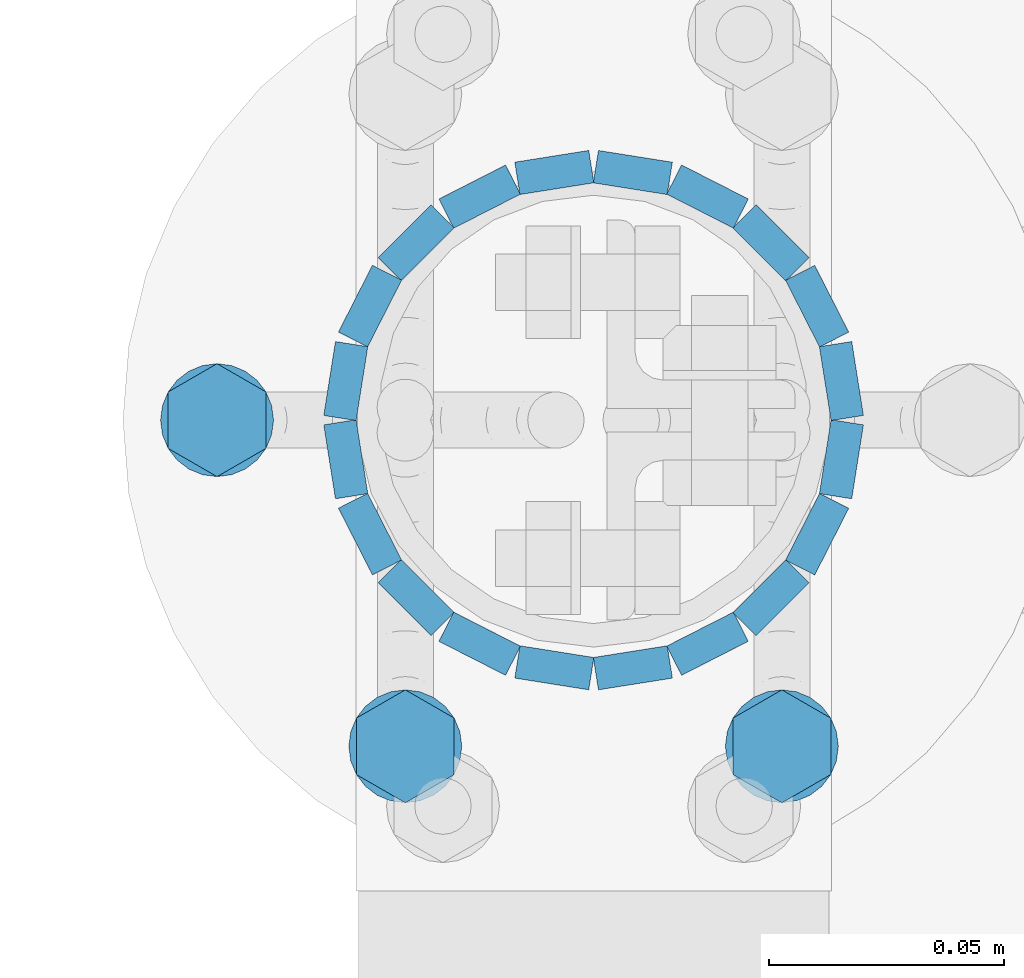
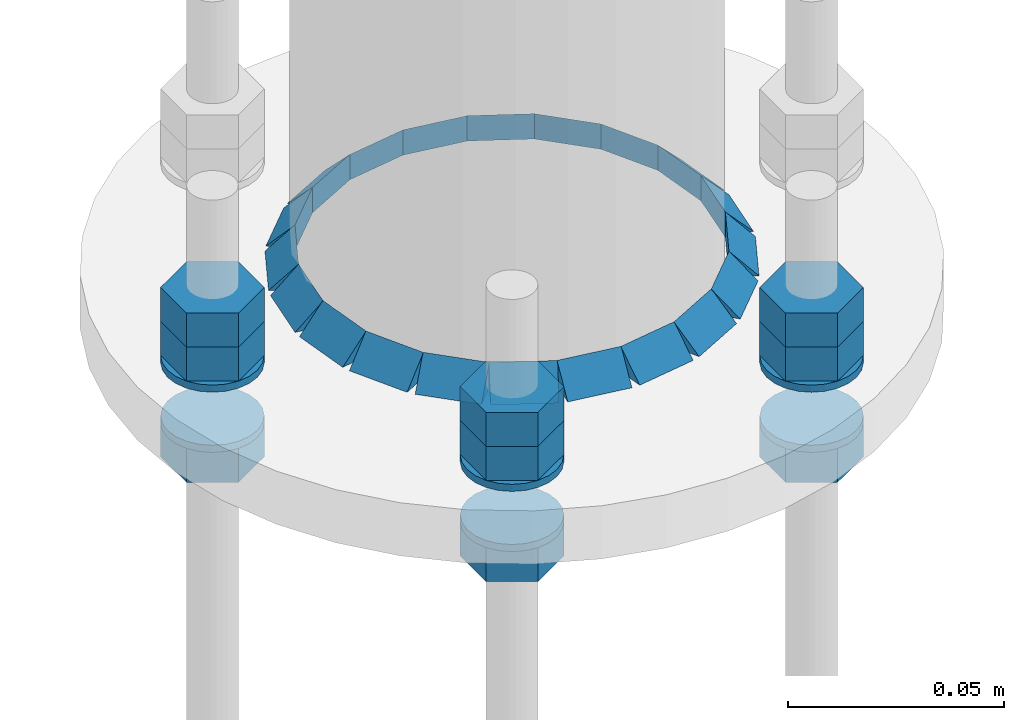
# One storey, part 74 of 84: 40 fasteners, 15 mechanical fasteners.
"""IFC4 building model written with IfcOpenShell, lengths in metres."""

from ifc_helpers import new_model, si_unit, frame, origin_with_axes, place, context, project, spatial, polyline, outline, extrude, type_object, element, save


model = new_model("IFC4")

# Units and contexts
model_context = context("Model", 3, precision=1e-05, world=origin_with_axes())
ifc_project = project(units=[si_unit("LENGTHUNIT", "METRE"), si_unit("AREAUNIT", "SQUARE_METRE"), si_unit("VOLUMEUNIT", "CUBIC_METRE"), si_unit("MASSUNIT", "GRAM", prefix="KILO"), si_unit("TIMEUNIT", "SECOND"), si_unit("PLANEANGLEUNIT", "RADIAN"), si_unit("SOLIDANGLEUNIT", "STERADIAN"), si_unit("THERMODYNAMICTEMPERATUREUNIT", "DEGREE_CELSIUS")], contexts=[model_context])

# Site, building, storey
placement_1 = place(None, origin_with_axes())
site = spatial("IfcSite", under=ifc_project, at=placement_1, Name="Italia", CompositionType="ELEMENT")
building = spatial("IfcBuilding", under=site, at=placement_1, Name="Tettoia", CompositionType="ELEMENT")
storey_placement = place(None, frame((0.0, 0.0, 4.199999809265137), z_axis=(0.0, 0.0, 1.0), x_axis=(1.0, 0.0, 0.0)))
storey = spatial("IfcBuildingStorey", under=building, at=storey_placement, Name="Storey 1", CompositionType="ELEMENT", Elevation=4.199999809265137)

# Fasteners
fastener_type_1 = type_object("IfcFastenerType", Name="Collegamento -014_0114", PredefinedType="WELD")
placement_2 = place(placement_1, origin_with_axes())
fastener_1_placement = place(placement_2, origin_with_axes())
element("IfcFastener", 1, at=fastener_1_placement, inside=storey, type_object=fastener_type_1, Name="Collegamento -014_0114", context=model_context, shape_type="SweptSolid", body=[
    extrude(outline(polyline([(0.0, 0.0), (0.00695801, 0.00717354), (0.00695801, 0.0), (0.0, 0.0)])), frame((0.116736, 19.8748, 4.01495), z_axis=(-0.98768937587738, 0.15642786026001, 0.0), x_axis=(-0.15642786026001, -0.98768937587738, 0.0)), (0.0, 0.0, 1.0), 0.0158999),
])
fastener_type_2 = type_object("IfcFastenerType", Name="Collegamento -014_0114", PredefinedType="WELD")
fastener_2_placement = place(placement_2, origin_with_axes())
element("IfcFastener", 2, at=fastener_2_placement, inside=storey, type_object=fastener_type_2, Name="Collegamento -014_0114", context=model_context, shape_type="SweptSolid", body=[
    extrude(outline(polyline([(0.0, 0.0), (0.00695801, 0.00717354), (0.00695801, 0.0), (0.0, 0.0)])), frame((0.132864, 19.867, 4.01495), z_axis=(-0.890982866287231, 0.454036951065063, 0.0), x_axis=(-0.454036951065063, -0.890982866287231, 0.0)), (0.0, 0.0, 1.0), 0.0159003),
])
fastener_type_3 = type_object("IfcFastenerType", Name="Collegamento -014_0114", PredefinedType="WELD")
fastener_3_placement = place(placement_2, origin_with_axes())
element("IfcFastener", 3, at=fastener_3_placement, inside=storey, type_object=fastener_type_3, Name="Collegamento -014_0114", context=model_context, shape_type="SweptSolid", body=[
    extrude(outline(polyline([(0.0, 0.0), (0.00695801, 0.00717354), (0.00695801, 0.0), (0.0, 0.0)])), frame((0.145775, 19.8545, 4.01495), z_axis=(-0.707138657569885, 0.707074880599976, 0.0), x_axis=(-0.707074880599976, -0.707138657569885, 0.0)), (0.0, 0.0, 1.0), 0.0158992),
])
fastener_type_4 = type_object("IfcFastenerType", Name="Collegamento -014_0114", PredefinedType="WELD")
fastener_4_placement = place(placement_2, origin_with_axes())
element("IfcFastener", 4, at=fastener_4_placement, inside=storey, type_object=fastener_type_4, Name="Collegamento -014_0114", context=model_context, shape_type="SweptSolid", body=[
    extrude(outline(polyline([(0.0, 0.0), (0.00695896, 0.00717354), (0.00695896, 0.0), (0.0, 0.0)])), frame((0.154206, 19.8387, 4.01495), z_axis=(-0.453968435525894, 0.89101779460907, 0.0), x_axis=(-0.89101779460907, -0.453968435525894, 0.0)), (0.0, 0.0, 1.0), 0.0159007),
])
fastener_type_5 = type_object("IfcFastenerType", Name="Collegamento -014_0114", PredefinedType="WELD")
fastener_5_placement = place(placement_2, origin_with_axes())
element("IfcFastener", 5, at=fastener_5_placement, inside=storey, type_object=fastener_type_5, Name="Collegamento -014_0114", context=model_context, shape_type="SweptSolid", body=[
    extrude(outline(polyline([(0.0, 0.0), (0.00695848, 0.00717354), (0.00695848, 0.0), (0.0, 0.0)])), frame((0.157331, 19.821, 4.01495), z_axis=(-0.156442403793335, 0.987687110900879, 0.0), x_axis=(-0.987687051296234, -0.156442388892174, 0.0)), (0.0, 0.0, 1.0), 0.015899),
])
fastener_type_6 = type_object("IfcFastenerType", Name="Collegamento -014_0114", PredefinedType="WELD")
fastener_6_placement = place(placement_2, origin_with_axes())
element("IfcFastener", 6, at=fastener_6_placement, inside=storey, type_object=fastener_type_6, Name="Collegamento -014_0114", context=model_context, shape_type="SweptSolid", body=[
    extrude(outline(polyline([(0.0, 0.0), (0.00695801, 0.00717354), (0.00695801, 0.0), (0.0, 0.0)])), frame((0.154844, 19.8033, 4.01495), z_axis=(0.156442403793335, 0.987687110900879, 0.0), x_axis=(-0.987687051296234, 0.156442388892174, 0.0)), (0.0, 0.0, 1.0), 0.015899),
])
fastener_type_7 = type_object("IfcFastenerType", Name="Collegamento -014_0114", PredefinedType="WELD")
fastener_7_placement = place(placement_2, origin_with_axes())
element("IfcFastener", 7, at=fastener_7_placement, inside=storey, type_object=fastener_type_7, Name="Collegamento -014_0114", context=model_context, shape_type="SweptSolid", body=[
    extrude(outline(polyline([(0.0, 0.0), (0.00695992, 0.00717354), (0.00695992, 0.0), (0.0, 0.0)])), frame((0.146988, 19.7871, 4.01495), z_axis=(0.453967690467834, 0.891018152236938, 0.0), x_axis=(-0.891018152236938, 0.453967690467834, 0.0)), (0.0, 0.0, 1.0), 0.0159007),
])
fastener_type_8 = type_object("IfcFastenerType", Name="Collegamento -014_0114", PredefinedType="WELD")
fastener_8_placement = place(placement_2, origin_with_axes())
element("IfcFastener", 8, at=fastener_8_placement, inside=storey, type_object=fastener_type_8, Name="Collegamento -014_0114", context=model_context, shape_type="SweptSolid", body=[
    extrude(outline(polyline([(0.0, 0.0), (0.00695896, 0.00717354), (0.00695896, 0.0), (0.0, 0.0)])), frame((0.134532, 19.7742, 4.01495), z_axis=(0.707139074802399, 0.707074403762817, 0.0), x_axis=(-0.707074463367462, 0.707139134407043, 0.0)), (0.0, 0.0, 1.0), 0.0158992),
])
fastener_type_9 = type_object("IfcFastenerType", Name="Collegamento -014_0114", PredefinedType="WELD")
fastener_9_placement = place(placement_2, origin_with_axes())
element("IfcFastener", 9, at=fastener_9_placement, inside=storey, type_object=fastener_type_9, Name="Collegamento -014_0114", context=model_context, shape_type="SweptSolid", body=[
    extrude(outline(polyline([(0.0, 0.0), (0.00695801, 0.00717354), (0.00695801, 0.0), (0.0, 0.0)])), frame((0.118697, 19.7658, 4.01495), z_axis=(0.890983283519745, 0.454035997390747, 0.0), x_axis=(-0.454036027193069, 0.89098334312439, 0.0)), (0.0, 0.0, 1.0), 0.0159003),
])
fastener_type_10 = type_object("IfcFastenerType", Name="Collegamento -014_0114", PredefinedType="WELD")
fastener_10_placement = place(placement_2, origin_with_axes())
element("IfcFastener", 10, at=fastener_10_placement, inside=storey, type_object=fastener_type_10, Name="Collegamento -014_0114", context=model_context, shape_type="SweptSolid", body=[
    extrude(outline(polyline([(0.0, 0.0), (0.0069561, 0.00717354), (0.0069561, 0.0), (0.0, 0.0)])), frame((0.101031, 19.7627, 4.01495), z_axis=(0.98768937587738, 0.156428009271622, 0.0), x_axis=(-0.156428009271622, 0.98768937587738, 0.0)), (0.0, 0.0, 1.0), 0.0158999),
])
fastener_type_11 = type_object("IfcFastenerType", Name="Collegamento -014_0114", PredefinedType="WELD")
fastener_11_placement = place(placement_2, origin_with_axes())
element("IfcFastener", 11, at=fastener_11_placement, inside=storey, type_object=fastener_type_11, Name="Collegamento -014_0114", context=model_context, shape_type="SweptSolid", body=[
    extrude(outline(polyline([(0.0, 0.0), (0.0069561, 0.00717354), (0.0069561, 0.0), (0.0, 0.0)])), frame((0.0832645, 19.7652, 4.01495), z_axis=(0.98768937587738, -0.156428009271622, 0.0), x_axis=(0.156428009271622, 0.98768937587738, 0.0)), (0.0, 0.0, 1.0), 0.0158999),
])
fastener_type_12 = type_object("IfcFastenerType", Name="Collegamento -014_0114", PredefinedType="WELD")
fastener_12_placement = place(placement_2, origin_with_axes())
element("IfcFastener", 12, at=fastener_12_placement, inside=storey, type_object=fastener_type_12, Name="Collegamento -014_0114", context=model_context, shape_type="SweptSolid", body=[
    extrude(outline(polyline([(0.0, 0.0), (0.0069561, 0.00717354), (0.0069561, 0.0), (0.0, 0.0)])), frame((0.0671359, 19.773, 4.01495), z_axis=(0.8909832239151, -0.454036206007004, 0.0), x_axis=(0.454036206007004, 0.8909832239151, 0.0)), (0.0, 0.0, 1.0), 0.0159003),
])
fastener_type_13 = type_object("IfcFastenerType", Name="Collegamento -014_0114", PredefinedType="WELD")
fastener_13_placement = place(placement_2, origin_with_axes())
element("IfcFastener", 13, at=fastener_13_placement, inside=storey, type_object=fastener_type_13, Name="Collegamento -014_0114", context=model_context, shape_type="SweptSolid", body=[
    extrude(outline(polyline([(0.0, 0.0), (0.00695896, 0.00717354), (0.00695896, 0.0), (0.0, 0.0)])), frame((0.0542247, 19.7855, 4.01495), z_axis=(0.707138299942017, -0.707075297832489, 0.0), x_axis=(0.707075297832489, 0.707138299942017, 0.0)), (0.0, 0.0, 1.0), 0.0158992),
])
fastener_type_14 = type_object("IfcFastenerType", Name="Collegamento -014_0114", PredefinedType="WELD")
fastener_14_placement = place(placement_2, origin_with_axes())
element("IfcFastener", 14, at=fastener_14_placement, inside=storey, type_object=fastener_type_14, Name="Collegamento -014_0114", context=model_context, shape_type="SweptSolid", body=[
    extrude(outline(polyline([(0.0, 0.0), (0.00695801, 0.00717354), (0.00695801, 0.0), (0.0, 0.0)])), frame((0.0457937, 19.8013, 4.01495), z_axis=(0.453967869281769, -0.891018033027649, 0.0), x_axis=(0.891018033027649, 0.453967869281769, 0.0)), (0.0, 0.0, 1.0), 0.0159007),
])
fastener_type_15 = type_object("IfcFastenerType", Name="Collegamento -014_0114", PredefinedType="WELD")
fastener_15_placement = place(placement_2, origin_with_axes())
element("IfcFastener", 15, at=fastener_15_placement, inside=storey, type_object=fastener_type_15, Name="Collegamento -014_0114", context=model_context, shape_type="SweptSolid", body=[
    extrude(outline(polyline([(0.0, 0.0), (0.00695848, 0.00717354), (0.00695848, 0.0), (0.0, 0.0)])), frame((0.0426691, 19.819, 4.01495), z_axis=(0.156443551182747, -0.987686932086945, 0.0), x_axis=(0.9876868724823, 0.156443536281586, 0.0)), (0.0, 0.0, 1.0), 0.015899),
])
fastener_type_16 = type_object("IfcFastenerType", Name="Collegamento -014_0114", PredefinedType="WELD")
fastener_16_placement = place(placement_2, origin_with_axes())
element("IfcFastener", 16, at=fastener_16_placement, inside=storey, type_object=fastener_type_16, Name="Collegamento -014_0114", context=model_context, shape_type="SweptSolid", body=[
    extrude(outline(polyline([(0.0, 0.0), (0.00695801, 0.00717354), (0.00695801, 0.0), (0.0, 0.0)])), frame((0.0451564, 19.8367, 4.01495), z_axis=(-0.156443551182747, -0.987686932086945, 0.0), x_axis=(0.9876868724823, -0.156443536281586, 0.0)), (0.0, 0.0, 1.0), 0.015899),
])
fastener_type_17 = type_object("IfcFastenerType", Name="Collegamento -014_0114", PredefinedType="WELD")
fastener_17_placement = place(placement_2, origin_with_axes())
element("IfcFastener", 17, at=fastener_17_placement, inside=storey, type_object=fastener_type_17, Name="Collegamento -014_0114", context=model_context, shape_type="SweptSolid", body=[
    extrude(outline(polyline([(0.0, 0.0), (0.00695992, 0.00717354), (0.00695992, 0.0), (0.0, 0.0)])), frame((0.0530121, 19.8529, 4.01495), z_axis=(-0.453967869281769, -0.891018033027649, 0.0), x_axis=(0.891018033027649, -0.453967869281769, 0.0)), (0.0, 0.0, 1.0), 0.0159007),
])
fastener_type_18 = type_object("IfcFastenerType", Name="Collegamento -014_0114", PredefinedType="WELD")
fastener_18_placement = place(placement_2, origin_with_axes())
element("IfcFastener", 18, at=fastener_18_placement, inside=storey, type_object=fastener_type_18, Name="Collegamento -014_0114", context=model_context, shape_type="SweptSolid", body=[
    extrude(outline(polyline([(0.0, 0.0), (0.00695896, 0.00717354), (0.00695896, 0.0), (0.0, 0.0)])), frame((0.0654676, 19.8658, 4.01495), z_axis=(-0.707138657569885, -0.707074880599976, 0.0), x_axis=(0.707074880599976, -0.707138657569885, 0.0)), (0.0, 0.0, 1.0), 0.0158992),
])
fastener_type_19 = type_object("IfcFastenerType", Name="Collegamento -014_0114", PredefinedType="WELD")
fastener_19_placement = place(placement_2, origin_with_axes())
element("IfcFastener", 19, at=fastener_19_placement, inside=storey, type_object=fastener_type_19, Name="Collegamento -014_0114", context=model_context, shape_type="SweptSolid", body=[
    extrude(outline(polyline([(0.0, 0.0), (0.0069561, 0.00717354), (0.0069561, 0.0), (0.0, 0.0)])), frame((0.0813028, 19.8742, 4.01495), z_axis=(-0.890982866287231, -0.454036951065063, 0.0), x_axis=(0.454036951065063, -0.890982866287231, 0.0)), (0.0, 0.0, 1.0), 0.0159003),
])
fastener_type_20 = type_object("IfcFastenerType", Name="Collegamento -014_0114", PredefinedType="WELD")
fastener_20_placement = place(placement_2, origin_with_axes())
element("IfcFastener", 20, at=fastener_20_placement, inside=storey, type_object=fastener_type_20, Name="Collegamento -014_0114", context=model_context, shape_type="SweptSolid", body=[
    extrude(outline(polyline([(0.0, 0.0), (0.0069561, 0.00717354), (0.0069561, 0.0), (0.0, 0.0)])), frame((0.0989686, 19.8773, 4.01495), z_axis=(-0.98768937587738, -0.15642786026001, 0.0), x_axis=(0.15642786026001, -0.98768937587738, 0.0)), (0.0, 0.0, 1.0), 0.0158999),
])
fastener_type_21 = type_object("IfcFastenerType", Name="Collegamento -014_0114", PredefinedType="WELD")
fastener_21_placement = place(placement_2, origin_with_axes())
element("IfcFastener", 21, at=fastener_21_placement, inside=storey, type_object=fastener_type_21, Name="Collegamento -014_0114", context=model_context, shape_type="SweptSolid", body=[
    extrude(outline(polyline([(0.0, 0.0), (0.00695801, 0.00717354), (0.00695801, 0.0), (0.0, 0.0)])), frame((0.116736, 19.8748, 4.01495), z_axis=(-0.98768937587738, 0.15642786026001, 0.0), x_axis=(-0.15642786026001, -0.98768937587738, 0.0)), (0.0, 0.0, 1.0), 0.0158999),
])
fastener_type_22 = type_object("IfcFastenerType", Name="Collegamento -014_0114", PredefinedType="WELD")
fastener_22_placement = place(placement_2, origin_with_axes())
element("IfcFastener", 22, at=fastener_22_placement, inside=storey, type_object=fastener_type_22, Name="Collegamento -014_0114", context=model_context, shape_type="SweptSolid", body=[
    extrude(outline(polyline([(0.0, 0.0), (0.00695801, 0.00717354), (0.00695801, 0.0), (0.0, 0.0)])), frame((0.132864, 19.867, 4.01495), z_axis=(-0.890982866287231, 0.454036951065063, 0.0), x_axis=(-0.454036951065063, -0.890982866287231, 0.0)), (0.0, 0.0, 1.0), 0.0159003),
])
fastener_type_23 = type_object("IfcFastenerType", Name="Collegamento -014_0114", PredefinedType="WELD")
fastener_23_placement = place(placement_2, origin_with_axes())
element("IfcFastener", 23, at=fastener_23_placement, inside=storey, type_object=fastener_type_23, Name="Collegamento -014_0114", context=model_context, shape_type="SweptSolid", body=[
    extrude(outline(polyline([(0.0, 0.0), (0.00695801, 0.00717354), (0.00695801, 0.0), (0.0, 0.0)])), frame((0.145775, 19.8545, 4.01495), z_axis=(-0.707138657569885, 0.707074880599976, 0.0), x_axis=(-0.707074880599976, -0.707138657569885, 0.0)), (0.0, 0.0, 1.0), 0.0158992),
])
fastener_type_24 = type_object("IfcFastenerType", Name="Collegamento -014_0114", PredefinedType="WELD")
fastener_24_placement = place(placement_2, origin_with_axes())
element("IfcFastener", 24, at=fastener_24_placement, inside=storey, type_object=fastener_type_24, Name="Collegamento -014_0114", context=model_context, shape_type="SweptSolid", body=[
    extrude(outline(polyline([(0.0, 0.0), (0.00695896, 0.00717354), (0.00695896, 0.0), (0.0, 0.0)])), frame((0.154206, 19.8387, 4.01495), z_axis=(-0.453968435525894, 0.89101779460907, 0.0), x_axis=(-0.89101779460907, -0.453968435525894, 0.0)), (0.0, 0.0, 1.0), 0.0159007),
])
fastener_type_25 = type_object("IfcFastenerType", Name="Collegamento -014_0114", PredefinedType="WELD")
fastener_25_placement = place(placement_2, origin_with_axes())
element("IfcFastener", 25, at=fastener_25_placement, inside=storey, type_object=fastener_type_25, Name="Collegamento -014_0114", context=model_context, shape_type="SweptSolid", body=[
    extrude(outline(polyline([(0.0, 0.0), (0.00695848, 0.00717354), (0.00695848, 0.0), (0.0, 0.0)])), frame((0.157331, 19.821, 4.01495), z_axis=(-0.156442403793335, 0.987687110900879, 0.0), x_axis=(-0.987687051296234, -0.156442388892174, 0.0)), (0.0, 0.0, 1.0), 0.015899),
])
fastener_type_26 = type_object("IfcFastenerType", Name="Collegamento -014_0114", PredefinedType="WELD")
fastener_26_placement = place(placement_2, origin_with_axes())
element("IfcFastener", 26, at=fastener_26_placement, inside=storey, type_object=fastener_type_26, Name="Collegamento -014_0114", context=model_context, shape_type="SweptSolid", body=[
    extrude(outline(polyline([(0.0, 0.0), (0.00695801, 0.00717354), (0.00695801, 0.0), (0.0, 0.0)])), frame((0.154844, 19.8033, 4.01495), z_axis=(0.156442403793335, 0.987687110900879, 0.0), x_axis=(-0.987687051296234, 0.156442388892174, 0.0)), (0.0, 0.0, 1.0), 0.015899),
])
fastener_type_27 = type_object("IfcFastenerType", Name="Collegamento -014_0114", PredefinedType="WELD")
fastener_27_placement = place(placement_2, origin_with_axes())
element("IfcFastener", 27, at=fastener_27_placement, inside=storey, type_object=fastener_type_27, Name="Collegamento -014_0114", context=model_context, shape_type="SweptSolid", body=[
    extrude(outline(polyline([(0.0, 0.0), (0.00695992, 0.00717354), (0.00695992, 0.0), (0.0, 0.0)])), frame((0.146988, 19.7871, 4.01495), z_axis=(0.453967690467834, 0.891018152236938, 0.0), x_axis=(-0.891018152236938, 0.453967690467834, 0.0)), (0.0, 0.0, 1.0), 0.0159007),
])
fastener_type_28 = type_object("IfcFastenerType", Name="Collegamento -014_0114", PredefinedType="WELD")
fastener_28_placement = place(placement_2, origin_with_axes())
element("IfcFastener", 28, at=fastener_28_placement, inside=storey, type_object=fastener_type_28, Name="Collegamento -014_0114", context=model_context, shape_type="SweptSolid", body=[
    extrude(outline(polyline([(0.0, 0.0), (0.00695896, 0.00717354), (0.00695896, 0.0), (0.0, 0.0)])), frame((0.134532, 19.7742, 4.01495), z_axis=(0.707139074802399, 0.707074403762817, 0.0), x_axis=(-0.707074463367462, 0.707139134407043, 0.0)), (0.0, 0.0, 1.0), 0.0158992),
])
fastener_type_29 = type_object("IfcFastenerType", Name="Collegamento -014_0114", PredefinedType="WELD")
fastener_29_placement = place(placement_2, origin_with_axes())
element("IfcFastener", 29, at=fastener_29_placement, inside=storey, type_object=fastener_type_29, Name="Collegamento -014_0114", context=model_context, shape_type="SweptSolid", body=[
    extrude(outline(polyline([(0.0, 0.0), (0.00695801, 0.00717354), (0.00695801, 0.0), (0.0, 0.0)])), frame((0.118697, 19.7658, 4.01495), z_axis=(0.890983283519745, 0.454035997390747, 0.0), x_axis=(-0.454036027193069, 0.89098334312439, 0.0)), (0.0, 0.0, 1.0), 0.0159003),
])
fastener_type_30 = type_object("IfcFastenerType", Name="Collegamento -014_0114", PredefinedType="WELD")
fastener_30_placement = place(placement_2, origin_with_axes())
element("IfcFastener", 30, at=fastener_30_placement, inside=storey, type_object=fastener_type_30, Name="Collegamento -014_0114", context=model_context, shape_type="SweptSolid", body=[
    extrude(outline(polyline([(0.0, 0.0), (0.0069561, 0.00717354), (0.0069561, 0.0), (0.0, 0.0)])), frame((0.101031, 19.7627, 4.01495), z_axis=(0.98768937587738, 0.156428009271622, 0.0), x_axis=(-0.156428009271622, 0.98768937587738, 0.0)), (0.0, 0.0, 1.0), 0.0158999),
])
fastener_type_31 = type_object("IfcFastenerType", Name="Collegamento -014_0114", PredefinedType="WELD")
fastener_31_placement = place(placement_2, origin_with_axes())
element("IfcFastener", 31, at=fastener_31_placement, inside=storey, type_object=fastener_type_31, Name="Collegamento -014_0114", context=model_context, shape_type="SweptSolid", body=[
    extrude(outline(polyline([(0.0, 0.0), (0.0069561, 0.00717354), (0.0069561, 0.0), (0.0, 0.0)])), frame((0.0832645, 19.7652, 4.01495), z_axis=(0.98768937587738, -0.156428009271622, 0.0), x_axis=(0.156428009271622, 0.98768937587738, 0.0)), (0.0, 0.0, 1.0), 0.0158999),
])
fastener_type_32 = type_object("IfcFastenerType", Name="Collegamento -014_0114", PredefinedType="WELD")
fastener_32_placement = place(placement_2, origin_with_axes())
element("IfcFastener", 32, at=fastener_32_placement, inside=storey, type_object=fastener_type_32, Name="Collegamento -014_0114", context=model_context, shape_type="SweptSolid", body=[
    extrude(outline(polyline([(0.0, 0.0), (0.0069561, 0.00717354), (0.0069561, 0.0), (0.0, 0.0)])), frame((0.0671359, 19.773, 4.01495), z_axis=(0.8909832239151, -0.454036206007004, 0.0), x_axis=(0.454036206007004, 0.8909832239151, 0.0)), (0.0, 0.0, 1.0), 0.0159003),
])
fastener_type_33 = type_object("IfcFastenerType", Name="Collegamento -014_0114", PredefinedType="WELD")
fastener_33_placement = place(placement_2, origin_with_axes())
element("IfcFastener", 33, at=fastener_33_placement, inside=storey, type_object=fastener_type_33, Name="Collegamento -014_0114", context=model_context, shape_type="SweptSolid", body=[
    extrude(outline(polyline([(0.0, 0.0), (0.00695896, 0.00717354), (0.00695896, 0.0), (0.0, 0.0)])), frame((0.0542247, 19.7855, 4.01495), z_axis=(0.707138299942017, -0.707075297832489, 0.0), x_axis=(0.707075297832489, 0.707138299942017, 0.0)), (0.0, 0.0, 1.0), 0.0158992),
])
fastener_type_34 = type_object("IfcFastenerType", Name="Collegamento -014_0114", PredefinedType="WELD")
fastener_34_placement = place(placement_2, origin_with_axes())
element("IfcFastener", 34, at=fastener_34_placement, inside=storey, type_object=fastener_type_34, Name="Collegamento -014_0114", context=model_context, shape_type="SweptSolid", body=[
    extrude(outline(polyline([(0.0, 0.0), (0.00695801, 0.00717354), (0.00695801, 0.0), (0.0, 0.0)])), frame((0.0457937, 19.8013, 4.01495), z_axis=(0.453967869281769, -0.891018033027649, 0.0), x_axis=(0.891018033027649, 0.453967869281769, 0.0)), (0.0, 0.0, 1.0), 0.0159007),
])
fastener_type_35 = type_object("IfcFastenerType", Name="Collegamento -014_0114", PredefinedType="WELD")
fastener_35_placement = place(placement_2, origin_with_axes())
element("IfcFastener", 35, at=fastener_35_placement, inside=storey, type_object=fastener_type_35, Name="Collegamento -014_0114", context=model_context, shape_type="SweptSolid", body=[
    extrude(outline(polyline([(0.0, 0.0), (0.00695848, 0.00717354), (0.00695848, 0.0), (0.0, 0.0)])), frame((0.0426691, 19.819, 4.01495), z_axis=(0.156443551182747, -0.987686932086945, 0.0), x_axis=(0.9876868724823, 0.156443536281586, 0.0)), (0.0, 0.0, 1.0), 0.015899),
])
fastener_type_36 = type_object("IfcFastenerType", Name="Collegamento -014_0114", PredefinedType="WELD")
fastener_36_placement = place(placement_2, origin_with_axes())
element("IfcFastener", 36, at=fastener_36_placement, inside=storey, type_object=fastener_type_36, Name="Collegamento -014_0114", context=model_context, shape_type="SweptSolid", body=[
    extrude(outline(polyline([(0.0, 0.0), (0.00695801, 0.00717354), (0.00695801, 0.0), (0.0, 0.0)])), frame((0.0451564, 19.8367, 4.01495), z_axis=(-0.156443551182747, -0.987686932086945, 0.0), x_axis=(0.9876868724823, -0.156443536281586, 0.0)), (0.0, 0.0, 1.0), 0.015899),
])
fastener_type_37 = type_object("IfcFastenerType", Name="Collegamento -014_0114", PredefinedType="WELD")
fastener_37_placement = place(placement_2, origin_with_axes())
element("IfcFastener", 37, at=fastener_37_placement, inside=storey, type_object=fastener_type_37, Name="Collegamento -014_0114", context=model_context, shape_type="SweptSolid", body=[
    extrude(outline(polyline([(0.0, 0.0), (0.00695992, 0.00717354), (0.00695992, 0.0), (0.0, 0.0)])), frame((0.0530121, 19.8529, 4.01495), z_axis=(-0.453967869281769, -0.891018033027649, 0.0), x_axis=(0.891018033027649, -0.453967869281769, 0.0)), (0.0, 0.0, 1.0), 0.0159007),
])
fastener_type_38 = type_object("IfcFastenerType", Name="Collegamento -014_0114", PredefinedType="WELD")
fastener_38_placement = place(placement_2, origin_with_axes())
element("IfcFastener", 38, at=fastener_38_placement, inside=storey, type_object=fastener_type_38, Name="Collegamento -014_0114", context=model_context, shape_type="SweptSolid", body=[
    extrude(outline(polyline([(0.0, 0.0), (0.00695896, 0.00717354), (0.00695896, 0.0), (0.0, 0.0)])), frame((0.0654676, 19.8658, 4.01495), z_axis=(-0.707138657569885, -0.707074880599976, 0.0), x_axis=(0.707074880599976, -0.707138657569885, 0.0)), (0.0, 0.0, 1.0), 0.0158992),
])
fastener_type_39 = type_object("IfcFastenerType", Name="Collegamento -014_0114", PredefinedType="WELD")
fastener_39_placement = place(placement_2, origin_with_axes())
element("IfcFastener", 39, at=fastener_39_placement, inside=storey, type_object=fastener_type_39, Name="Collegamento -014_0114", context=model_context, shape_type="SweptSolid", body=[
    extrude(outline(polyline([(0.0, 0.0), (0.0069561, 0.00717354), (0.0069561, 0.0), (0.0, 0.0)])), frame((0.0813028, 19.8742, 4.01495), z_axis=(-0.890982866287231, -0.454036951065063, 0.0), x_axis=(0.454036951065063, -0.890982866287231, 0.0)), (0.0, 0.0, 1.0), 0.0159003),
])
fastener_type_40 = type_object("IfcFastenerType", Name="Collegamento -014_0114", PredefinedType="WELD")
fastener_40_placement = place(placement_2, origin_with_axes())
element("IfcFastener", 40, at=fastener_40_placement, inside=storey, type_object=fastener_type_40, Name="Collegamento -014_0114", context=model_context, shape_type="SweptSolid", body=[
    extrude(outline(polyline([(0.0, 0.0), (0.0069561, 0.00717354), (0.0069561, 0.0), (0.0, 0.0)])), frame((0.0989686, 19.8773, 4.01495), z_axis=(-0.98768937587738, -0.15642786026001, 0.0), x_axis=(0.15642786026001, -0.98768937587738, 0.0)), (0.0, 0.0, 1.0), 0.0158999),
])

# Mechanical fasteners
mechanical_fastener_type_1 = type_object("IfcMechanicalFastenerType", Name="Collegamento -014_0114", PredefinedType="BOLT")
mechanical_fastener_1_placement = place(placement_2, origin_with_axes())
element("IfcMechanicalFastener", 41, at=mechanical_fastener_1_placement, inside=storey, type_object=mechanical_fastener_type_1, Name="Collegamento -014_0114", NominalDiameter=0.0119993, context=model_context, shape_type="SweptSolid", body=[
    extrude(outline(polyline([(0.0, 0.0), (-0.012001, 0.0), (-0.0179996, 0.0103923), (-0.012001, 0.0207846), (0.0, 0.0207846), (0.00599861, 0.0103923), (0.0, 0.0)])), frame((0.0303923, 19.826, 4.017), z_axis=(0.0, 0.0, 1.0), x_axis=(0.0, 1.0, 0.0)), (0.0, 0.0, 1.0), 0.00959969),
])
mechanical_fastener_type_2 = type_object("IfcMechanicalFastenerType", Name="Collegamento -014_0114", PredefinedType="BOLT")
mechanical_fastener_2_placement = place(placement_2, origin_with_axes())
element("IfcMechanicalFastener", 42, at=mechanical_fastener_2_placement, inside=storey, type_object=mechanical_fastener_type_2, Name="Collegamento -014_0114", NominalDiameter=0.0119993, context=model_context, shape_type="SweptSolid", body=[
    extrude(outline(polyline([(0.0, 0.0), (-0.012001, 0.0), (-0.0179996, 0.0103923), (-0.012001, 0.0207846), (0.0, 0.0207846), (0.00599861, 0.0103923), (0.0, 0.0)])), frame((0.0303923, 19.826, 4.0266), z_axis=(0.0, 0.0, 1.0), x_axis=(0.0, 1.0, 0.0)), (0.0, 0.0, 1.0), 0.00960016),
])
mechanical_fastener_type_3 = type_object("IfcMechanicalFastenerType", Name="Collegamento -014_0114", PredefinedType="BOLT")
mechanical_fastener_3_placement = place(placement_2, origin_with_axes())
element("IfcMechanicalFastener", 43, at=mechanical_fastener_3_placement, inside=storey, type_object=mechanical_fastener_type_3, Name="Collegamento -014_0114", NominalDiameter=0.0119993, context=model_context, shape_type="SweptSolid", body=[
    extrude(outline(polyline([(0.0, 0.0), (-0.012001, 0.0), (-0.0179996, 0.0103923), (-0.012001, 0.0207846), (0.0, 0.0207846), (0.00599861, 0.0103923), (0.0, 0.0)])), frame((0.0303923, 19.826, 3.9884), z_axis=(0.0, 0.0, 1.0), x_axis=(0.0, 1.0, 0.0)), (0.0, 0.0, 1.0), 0.00959992),
])
mechanical_fastener_type_4 = type_object("IfcMechanicalFastenerType", Name="Collegamento -014_0114", PredefinedType="BOLT")
mechanical_fastener_4_placement = place(placement_2, origin_with_axes())
element("IfcMechanicalFastener", 44, at=mechanical_fastener_4_placement, inside=storey, type_object=mechanical_fastener_type_4, Name="Collegamento -014_0114", NominalDiameter=0.024, context=model_context, shape_type="SweptSolid", body=[
    extrude(outline(polyline([(0.0, 0.0), (-0.000408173, -0.00310583), (-0.00160599, -0.006), (-0.00351334, -0.00848528), (-0.00599861, -0.0103923), (-0.00889397, -0.0115911), (-0.0119991, -0.012), (-0.0151043, -0.0115911), (-0.0179996, -0.0103923), (-0.0204849, -0.00848528), (-0.0223923, -0.006), (-0.0235901, -0.00310583), (-0.0239983, 0.0), (-0.0235901, 0.00310583), (-0.0223923, 0.006), (-0.0204849, 0.00848528), (-0.0179996, 0.0103923), (-0.0151043, 0.0115911), (-0.0119991, 0.012), (-0.00889397, 0.0115911), (-0.00599861, 0.0103923), (-0.00351334, 0.00848528), (-0.00160599, 0.006), (-0.000408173, 0.00310583), (0.0, 0.0)])), frame((0.02, 19.832, 4.015), z_axis=(0.0, 0.0, 1.0), x_axis=(0.0, 1.0, 0.0)), (0.0, 0.0, 1.0), 0.00200033),
])
mechanical_fastener_type_5 = type_object("IfcMechanicalFastenerType", Name="Collegamento -014_0114", PredefinedType="BOLT")
mechanical_fastener_5_placement = place(placement_2, origin_with_axes())
element("IfcMechanicalFastener", 45, at=mechanical_fastener_5_placement, inside=storey, type_object=mechanical_fastener_type_5, Name="Collegamento -014_0114", NominalDiameter=0.024, context=model_context, shape_type="SweptSolid", body=[
    extrude(outline(polyline([(0.0, 0.0), (-0.000408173, -0.00310583), (-0.00160599, -0.006), (-0.00351334, -0.00848528), (-0.00599861, -0.0103923), (-0.00889397, -0.0115911), (-0.0119991, -0.012), (-0.0151043, -0.0115911), (-0.0179996, -0.0103923), (-0.0204849, -0.00848528), (-0.0223923, -0.006), (-0.0235901, -0.00310583), (-0.0239983, 0.0), (-0.0235901, 0.00310583), (-0.0223923, 0.006), (-0.0204849, 0.00848528), (-0.0179996, 0.0103923), (-0.0151043, 0.0115911), (-0.0119991, 0.012), (-0.00889397, 0.0115911), (-0.00599861, 0.0103923), (-0.00351334, 0.00848528), (-0.00160599, 0.006), (-0.000408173, 0.00310583), (0.0, 0.0)])), frame((0.02, 19.832, 3.998), z_axis=(0.0, 0.0, 1.0), x_axis=(0.0, 1.0, 0.0)), (0.0, 0.0, 1.0), 0.00200009),
])
mechanical_fastener_type_6 = type_object("IfcMechanicalFastenerType", Name="Collegamento -014_0114", PredefinedType="BOLT")
mechanical_fastener_6_placement = place(placement_2, origin_with_axes())
element("IfcMechanicalFastener", 46, at=mechanical_fastener_6_placement, inside=storey, type_object=mechanical_fastener_type_6, Name="Collegamento -014_0114", NominalDiameter=0.0119991, context=model_context, shape_type="SweptSolid", body=[
    extrude(outline(polyline([(0.0, 0.0), (-0.0119991, 0.0), (-0.0179996, 0.0103923), (-0.0119991, 0.0207846), (0.0, 0.0207846), (0.00600052, 0.0103923), (0.0, 0.0)])), frame((0.0703923, 19.7567, 4.017), z_axis=(0.0, 0.0, 1.0), x_axis=(0.0, 1.0, 0.0)), (0.0, 0.0, 1.0), 0.00959969),
])
mechanical_fastener_type_7 = type_object("IfcMechanicalFastenerType", Name="Collegamento -014_0114", PredefinedType="BOLT")
mechanical_fastener_7_placement = place(placement_2, origin_with_axes())
element("IfcMechanicalFastener", 47, at=mechanical_fastener_7_placement, inside=storey, type_object=mechanical_fastener_type_7, Name="Collegamento -014_0114", NominalDiameter=0.0119991, context=model_context, shape_type="SweptSolid", body=[
    extrude(outline(polyline([(0.0, 0.0), (-0.0119991, 0.0), (-0.0179996, 0.0103923), (-0.0119991, 0.0207846), (0.0, 0.0207846), (0.00600052, 0.0103923), (0.0, 0.0)])), frame((0.0703923, 19.7567, 4.0266), z_axis=(0.0, 0.0, 1.0), x_axis=(0.0, 1.0, 0.0)), (0.0, 0.0, 1.0), 0.00960016),
])
mechanical_fastener_type_8 = type_object("IfcMechanicalFastenerType", Name="Collegamento -014_0114", PredefinedType="BOLT")
mechanical_fastener_8_placement = place(placement_2, origin_with_axes())
element("IfcMechanicalFastener", 48, at=mechanical_fastener_8_placement, inside=storey, type_object=mechanical_fastener_type_8, Name="Collegamento -014_0114", NominalDiameter=0.0119991, context=model_context, shape_type="SweptSolid", body=[
    extrude(outline(polyline([(0.0, 0.0), (-0.0119991, 0.0), (-0.0179996, 0.0103923), (-0.0119991, 0.0207846), (0.0, 0.0207846), (0.00600052, 0.0103923), (0.0, 0.0)])), frame((0.0703923, 19.7567, 3.9884), z_axis=(0.0, 0.0, 1.0), x_axis=(0.0, 1.0, 0.0)), (0.0, 0.0, 1.0), 0.00959992),
])
mechanical_fastener_type_9 = type_object("IfcMechanicalFastenerType", Name="Collegamento -014_0114", PredefinedType="BOLT")
mechanical_fastener_9_placement = place(placement_2, origin_with_axes())
element("IfcMechanicalFastener", 49, at=mechanical_fastener_9_placement, inside=storey, type_object=mechanical_fastener_type_9, Name="Collegamento -014_0114", NominalDiameter=0.024, context=model_context, shape_type="SweptSolid", body=[
    extrude(outline(polyline([(0.0, 0.0), (-0.000408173, -0.00310583), (-0.00160599, -0.006), (-0.00351334, -0.00848528), (-0.00599861, -0.0103923), (-0.00889397, -0.0115911), (-0.0119991, -0.012), (-0.0151043, -0.0115911), (-0.0179996, -0.0103923), (-0.0204849, -0.00848528), (-0.0223923, -0.006), (-0.0235901, -0.00310583), (-0.0239983, 0.0), (-0.0235901, 0.00310583), (-0.0223923, 0.006), (-0.0204849, 0.00848528), (-0.0179996, 0.0103923), (-0.0151043, 0.0115911), (-0.0119991, 0.012), (-0.00889397, 0.0115911), (-0.00599861, 0.0103923), (-0.00351334, 0.00848528), (-0.00160599, 0.006), (-0.000408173, 0.00310583), (0.0, 0.0)])), frame((0.06, 19.7627, 4.015), z_axis=(0.0, 0.0, 1.0), x_axis=(0.0, 1.0, 0.0)), (0.0, 0.0, 1.0), 0.00200033),
])
mechanical_fastener_type_10 = type_object("IfcMechanicalFastenerType", Name="Collegamento -014_0114", PredefinedType="BOLT")
mechanical_fastener_10_placement = place(placement_2, origin_with_axes())
element("IfcMechanicalFastener", 50, at=mechanical_fastener_10_placement, inside=storey, type_object=mechanical_fastener_type_10, Name="Collegamento -014_0114", NominalDiameter=0.024, context=model_context, shape_type="SweptSolid", body=[
    extrude(outline(polyline([(0.0, 0.0), (-0.000408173, -0.00310583), (-0.00160599, -0.006), (-0.00351334, -0.00848528), (-0.00599861, -0.0103923), (-0.00889397, -0.0115911), (-0.0119991, -0.012), (-0.0151043, -0.0115911), (-0.0179996, -0.0103923), (-0.0204849, -0.00848528), (-0.0223923, -0.006), (-0.0235901, -0.00310583), (-0.0239983, 0.0), (-0.0235901, 0.00310583), (-0.0223923, 0.006), (-0.0204849, 0.00848528), (-0.0179996, 0.0103923), (-0.0151043, 0.0115911), (-0.0119991, 0.012), (-0.00889397, 0.0115911), (-0.00599861, 0.0103923), (-0.00351334, 0.00848528), (-0.00160599, 0.006), (-0.000408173, 0.00310583), (0.0, 0.0)])), frame((0.06, 19.7627, 3.998), z_axis=(0.0, 0.0, 1.0), x_axis=(0.0, 1.0, 0.0)), (0.0, 0.0, 1.0), 0.00200009),
])
mechanical_fastener_type_11 = type_object("IfcMechanicalFastenerType", Name="Collegamento -014_0114", PredefinedType="BOLT")
mechanical_fastener_11_placement = place(placement_2, origin_with_axes())
element("IfcMechanicalFastener", 51, at=mechanical_fastener_11_placement, inside=storey, type_object=mechanical_fastener_type_11, Name="Collegamento -014_0114", NominalDiameter=0.0119991, context=model_context, shape_type="SweptSolid", body=[
    extrude(outline(polyline([(0.0, 0.0), (-0.0119991, 0.0), (-0.0179996, 0.0103923), (-0.0119991, 0.0207846), (0.0, 0.0207846), (0.00600052, 0.0103923), (0.0, 0.0)])), frame((0.150392, 19.7567, 4.017), z_axis=(0.0, 0.0, 1.0), x_axis=(0.0, 1.0, 0.0)), (0.0, 0.0, 1.0), 0.00959969),
])
mechanical_fastener_type_12 = type_object("IfcMechanicalFastenerType", Name="Collegamento -014_0114", PredefinedType="BOLT")
mechanical_fastener_12_placement = place(placement_2, origin_with_axes())
element("IfcMechanicalFastener", 52, at=mechanical_fastener_12_placement, inside=storey, type_object=mechanical_fastener_type_12, Name="Collegamento -014_0114", NominalDiameter=0.0119991, context=model_context, shape_type="SweptSolid", body=[
    extrude(outline(polyline([(0.0, 0.0), (-0.0119991, 0.0), (-0.0179996, 0.0103923), (-0.0119991, 0.0207846), (0.0, 0.0207846), (0.00600052, 0.0103923), (0.0, 0.0)])), frame((0.150392, 19.7567, 4.0266), z_axis=(0.0, 0.0, 1.0), x_axis=(0.0, 1.0, 0.0)), (0.0, 0.0, 1.0), 0.00960016),
])
mechanical_fastener_type_13 = type_object("IfcMechanicalFastenerType", Name="Collegamento -014_0114", PredefinedType="BOLT")
mechanical_fastener_13_placement = place(placement_2, origin_with_axes())
element("IfcMechanicalFastener", 53, at=mechanical_fastener_13_placement, inside=storey, type_object=mechanical_fastener_type_13, Name="Collegamento -014_0114", NominalDiameter=0.0119991, context=model_context, shape_type="SweptSolid", body=[
    extrude(outline(polyline([(0.0, 0.0), (-0.0119991, 0.0), (-0.0179996, 0.0103923), (-0.0119991, 0.0207846), (0.0, 0.0207846), (0.00600052, 0.0103923), (0.0, 0.0)])), frame((0.150392, 19.7567, 3.9884), z_axis=(0.0, 0.0, 1.0), x_axis=(0.0, 1.0, 0.0)), (0.0, 0.0, 1.0), 0.00959992),
])
mechanical_fastener_type_14 = type_object("IfcMechanicalFastenerType", Name="Collegamento -014_0114", PredefinedType="BOLT")
mechanical_fastener_14_placement = place(placement_2, origin_with_axes())
element("IfcMechanicalFastener", 54, at=mechanical_fastener_14_placement, inside=storey, type_object=mechanical_fastener_type_14, Name="Collegamento -014_0114", NominalDiameter=0.024, context=model_context, shape_type="SweptSolid", body=[
    extrude(outline(polyline([(0.0, 0.0), (-0.000408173, -0.00310583), (-0.00160599, -0.006), (-0.00351334, -0.00848529), (-0.00599861, -0.0103923), (-0.00889397, -0.0115911), (-0.0119991, -0.012), (-0.0151043, -0.0115911), (-0.0179996, -0.0103923), (-0.0204849, -0.00848529), (-0.0223923, -0.006), (-0.0235901, -0.00310583), (-0.0239983, 0.0), (-0.0235901, 0.00310583), (-0.0223923, 0.006), (-0.0204849, 0.00848529), (-0.0179996, 0.0103923), (-0.0151043, 0.0115911), (-0.0119991, 0.012), (-0.00889397, 0.0115911), (-0.00599861, 0.0103923), (-0.00351334, 0.00848527), (-0.00160599, 0.006), (-0.000408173, 0.00310582), (0.0, 0.0)])), frame((0.14, 19.7627, 4.015), z_axis=(0.0, 0.0, 1.0), x_axis=(0.0, 1.0, 0.0)), (0.0, 0.0, 1.0), 0.00200033),
])
mechanical_fastener_type_15 = type_object("IfcMechanicalFastenerType", Name="Collegamento -014_0114", PredefinedType="BOLT")
mechanical_fastener_15_placement = place(placement_2, origin_with_axes())
element("IfcMechanicalFastener", 55, at=mechanical_fastener_15_placement, inside=storey, type_object=mechanical_fastener_type_15, Name="Collegamento -014_0114", NominalDiameter=0.024, context=model_context, shape_type="SweptSolid", body=[
    extrude(outline(polyline([(0.0, 0.0), (-0.000408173, -0.00310583), (-0.00160599, -0.006), (-0.00351334, -0.00848529), (-0.00599861, -0.0103923), (-0.00889397, -0.0115911), (-0.0119991, -0.012), (-0.0151043, -0.0115911), (-0.0179996, -0.0103923), (-0.0204849, -0.00848529), (-0.0223923, -0.006), (-0.0235901, -0.00310583), (-0.0239983, 0.0), (-0.0235901, 0.00310583), (-0.0223923, 0.006), (-0.0204849, 0.00848529), (-0.0179996, 0.0103923), (-0.0151043, 0.0115911), (-0.0119991, 0.012), (-0.00889397, 0.0115911), (-0.00599861, 0.0103923), (-0.00351334, 0.00848527), (-0.00160599, 0.006), (-0.000408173, 0.00310582), (0.0, 0.0)])), frame((0.14, 19.7627, 3.998), z_axis=(0.0, 0.0, 1.0), x_axis=(0.0, 1.0, 0.0)), (0.0, 0.0, 1.0), 0.00200009),
])

save(model, "model.ifc")
